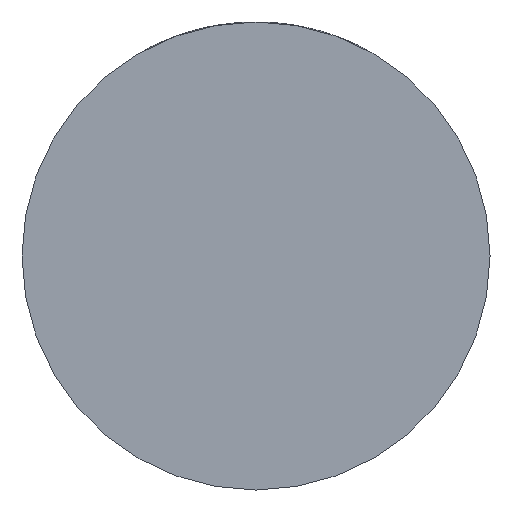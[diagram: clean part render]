
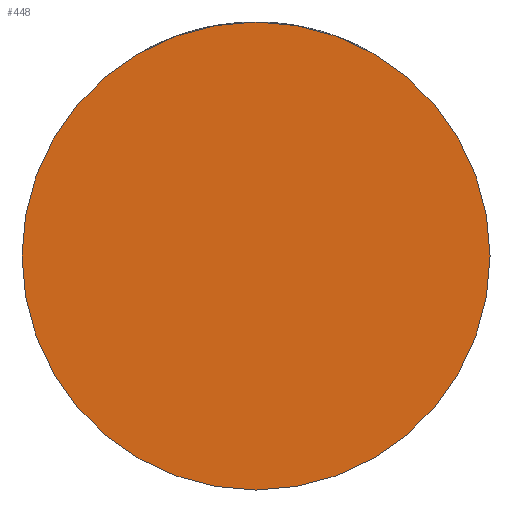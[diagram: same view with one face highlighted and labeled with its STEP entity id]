
A CAD part, front view. The second image highlights one B-rep face of the part: STEP entity #448.
In plain terms, the highlighted planar face has unit normal (0, -1, 0).
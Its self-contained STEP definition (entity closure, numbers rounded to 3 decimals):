
#333 = AXIS2_PLACEMENT_3D ( 'NONE', #2944, #1177, #2593 ) ;
#448 = ADVANCED_FACE ( 'NONE', ( #4069 ), #3335, .T. ) ;
#1177 = DIRECTION ( 'NONE',  ( 0., -1., 0. ) ) ;
#1242 = CARTESIAN_POINT ( 'NONE',  ( 0., -42., 0. ) ) ;
#1255 = CARTESIAN_POINT ( 'NONE',  ( -49., -42., 0. ) ) ;
#1450 = DIRECTION ( 'NONE',  ( 0., -1., 0. ) ) ;
#1473 = CARTESIAN_POINT ( 'NONE',  ( 0., -42., 0. ) ) ;
#1741 = AXIS2_PLACEMENT_3D ( 'NONE', #1242, #2255, #4054 ) ;
#1867 = CARTESIAN_POINT ( 'NONE',  ( 49., -42., 0. ) ) ;
#2028 = EDGE_LOOP ( 'NONE', ( #4396, #2468 ) ) ;
#2116 = AXIS2_PLACEMENT_3D ( 'NONE', #1473, #1450, #3947 ) ;
#2191 = CIRCLE ( 'NONE', #1741, 49. ) ;
#2255 = DIRECTION ( 'NONE',  ( 0., -1., 0. ) ) ;
#2257 = VERTEX_POINT ( 'NONE', #1255 ) ;
#2468 = ORIENTED_EDGE ( 'NONE', *, *, #3848, .T. ) ;
#2593 = DIRECTION ( 'NONE',  ( 1., 0., 0. ) ) ;
#2944 = CARTESIAN_POINT ( 'NONE',  ( 0., -42., 0. ) ) ;
#3335 = PLANE ( 'NONE',  #333 ) ;
#3520 = CIRCLE ( 'NONE', #2116, 49. ) ;
#3848 = EDGE_CURVE ( 'NONE', #4594, #2257, #2191, .T. ) ;
#3903 = EDGE_CURVE ( 'NONE', #2257, #4594, #3520, .T. ) ;
#3947 = DIRECTION ( 'NONE',  ( 1., 0., 0. ) ) ;
#4054 = DIRECTION ( 'NONE',  ( 1., 0., 0. ) ) ;
#4069 = FACE_OUTER_BOUND ( 'NONE', #2028, .T. ) ;
#4396 = ORIENTED_EDGE ( 'NONE', *, *, #3903, .T. ) ;
#4594 = VERTEX_POINT ( 'NONE', #1867 ) ;
